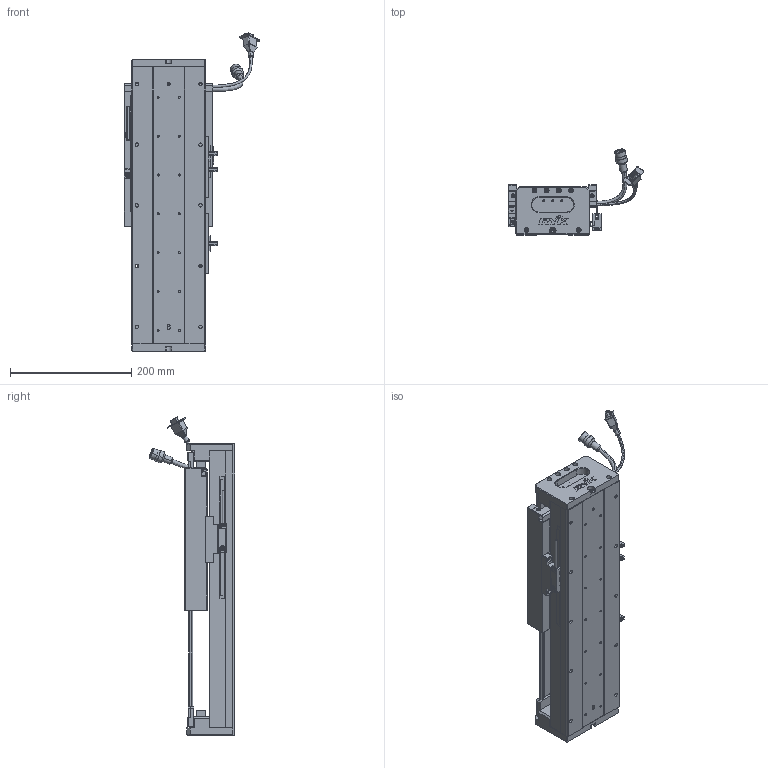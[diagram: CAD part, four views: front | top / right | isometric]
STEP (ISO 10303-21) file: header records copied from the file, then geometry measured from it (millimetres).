
FILE_DESCRIPTION (( 'STEP AP203' ), '1' );
FILE_NAME ('Z3-RY120D-1-L500-B-K.SLDASM_0150.step', '2021-05-17T05:45:35', ( '盈信电脑' ), ( '东莞市道滘镇水果街19号' ), 'SwSTEP 2.0', 'SolidWorks 2016', '' );
FILE_SCHEMA (( 'CONFIG_CONTROL_DESIGN' ));
Length unit declared in the file: millimetre
Products named in the file (37): SCALE-Part-2; HARNESS-Part-2; Z-RY120D詩湍奻揤裔; PBU_SHEET; RY100FB-遵嫖萇覜茼え; PSLH080_PSLF2; SCREW-M1.6-1; SCREW-M1.6; 榋妏寠巭燃_暯_M2_2; 080黍杅芛假蚾釱21遴; COVER; HARNESS-Part-1; SEAL; SCREW-M1.7; 120-Z-臏賑輸盄裔(21遴); SHIELDPLATE; SCREW-M1.7-1; SCALE; Z3-RY120铝滑块（21款）; Z-RY120D詩湍狟揤裔; SCREW-M1.6-3; 140蚥薯蝶輸; Z3-RY120-500-倰第菁釱_0150; SCALE-Part-1; LABEL; 覜茼ん672; SEAL-Part-1; COVER-Part-1; Z-120詩湍傷裔啣; HARNESS; LABEL-Part-1; Z3-RY120-L500詩湍100mm遵_0150; 140雄赽晤鎢ん堤盄; Z3-RY120D-1-L500-B-K.SLDASM_0150; HOLDER0; 672嫖萇羲壽假蚾釱; SCREW-M1.6-2
Assembly tree (43 placements, depth 4):
  Z3-RY120D-1-L500-B-K.SLDASM_0150
    Z3-RY120-500-倰第菁釱_0150
    覜茼ん672  x3
    672嫖萇羲壽假蚾釱  x2
    Z3-RY120铝滑块（21款）
    PSLH080_PSLF2
      SCALE
        SCALE-Part-1
        SCALE-Part-2
      HARNESS
        HARNESS-Part-1
        HARNESS-Part-2
      LABEL
        LABEL-Part-1
      COVER
        COVER-Part-1
      SEAL
        SEAL-Part-1
      榋妏寠巭燃_暯_M2_2
      SHIELDPLATE
      SCREW-M1.7
      SCREW-M1.7-1
      PBU_SHEET
      SCREW-M1.6
      SCREW-M1.6-1
      SCREW-M1.6-2
      SCREW-M1.6-3
      HOLDER0
    080黍杅芛假蚾釱21遴
    120-Z-臏賑輸盄裔(21遴)
    140雄赽晤鎢ん堤盄
    140蚥薯蝶輸  x2
    RY100FB-遵嫖萇覜茼え
    Z-120詩湍傷裔啣  x2
    Z-RY120D詩湍奻揤裔  x2
    Z-RY120D詩湍狟揤裔  x2
    Z3-RY120-L500詩湍100mm遵_0150
Bounding box: 222.88 x 140.94 x 524 mm (x, y, z)
Volume: 1957969.3 mm3; surface area: 611021.3 mm2
Topology: 38 solids, 38 shells, 2517 faces, 6621 edges, 4184 vertices
Faces by surface type: plane 1080, cylinder 1073, cone 242, torus 69, bspline 53
Entity records: 71362 total; most frequent: CARTESIAN_POINT 17471, DIRECTION 10487, ORIENTED_EDGE 10282, EDGE_CURVE 5141, AXIS2_PLACEMENT_3D 3814, VERTEX_POINT 3304, LINE 2859, VECTOR 2859
